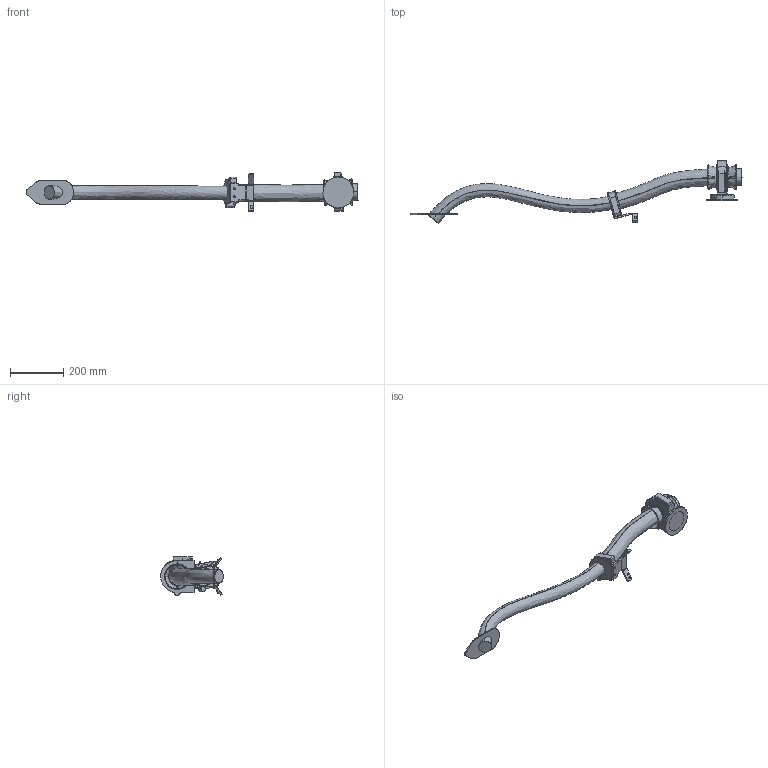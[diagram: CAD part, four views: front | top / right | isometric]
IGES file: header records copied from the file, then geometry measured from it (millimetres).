
Start section: SolidWorks IGES file using analytic representation for surfaces
Global section: file name: C:\Users\SEALDUN\OneDrive - ABB\Documents\R&D Robotics\Work Items\WI 632927\IGES\IRB5710-LID-SW_70kg-270_OC_02_IGES_J\IRB5710-LID_70kg-270_OC_rev01_LINK04_CABLE.igs; native system: SolidWorks 2024; preprocessor: SolidWorks 2024; author: SEALDUN; date: 250707.155229; units: millimetre
Bounding box: 1243.15 x 234.79 x 144.33 mm (x, y, z)
Surface area: 406122 mm2 (no closed solid volume)
Topology: 0 solids, 0 shells, 730 faces, 7979 edges, 7919 vertices
Faces by surface type: bspline 399, revolution 331
